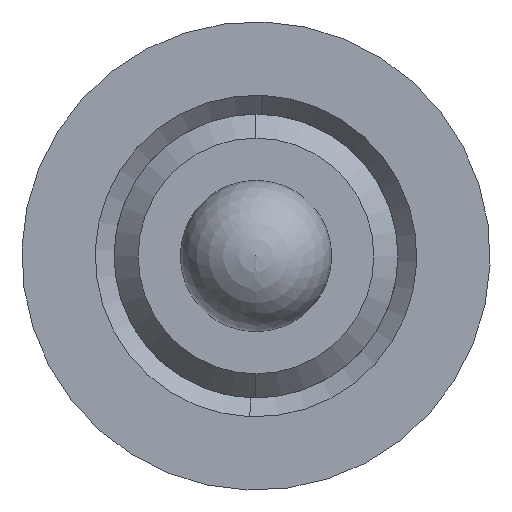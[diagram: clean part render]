
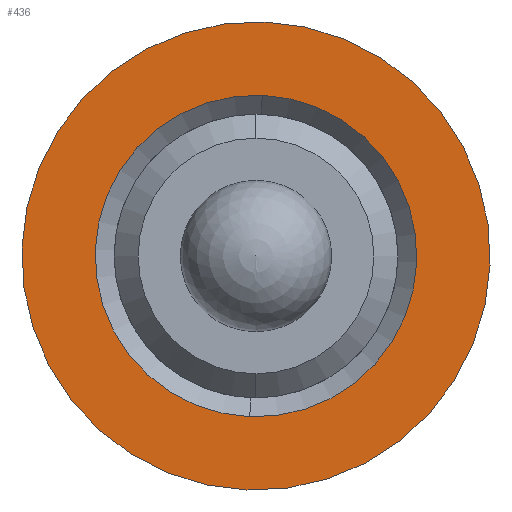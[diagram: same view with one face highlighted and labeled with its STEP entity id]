
A CAD part, left-side view. The second image highlights one B-rep face of the part: STEP entity #436.
In plain terms, the highlighted planar face has unit normal (-1, 0, 0).
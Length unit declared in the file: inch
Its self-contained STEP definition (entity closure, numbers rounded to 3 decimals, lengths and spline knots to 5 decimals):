
#23 = EDGE_CURVE ( 'NONE', #262, #951, #1159, .T. ) ;
#83 = DIRECTION ( 'NONE',  ( -1., 0., 0. ) ) ;
#126 = CIRCLE ( 'NONE', #1364, 0.09744 ) ;
#262 = VERTEX_POINT ( 'NONE', #748 ) ;
#263 = AXIS2_PLACEMENT_3D ( 'NONE', #1255, #83, #1057 ) ;
#276 = VERTEX_POINT ( 'NONE', #1132 ) ;
#301 = AXIS2_PLACEMENT_3D ( 'NONE', #750, #581, #1263 ) ;
#322 = AXIS2_PLACEMENT_3D ( 'NONE', #886, #1288, #1472 ) ;
#332 = DIRECTION ( 'NONE',  ( -1., 0., 0. ) ) ;
#334 = VERTEX_POINT ( 'NONE', #1005 ) ;
#412 = ORIENTED_EDGE ( 'NONE', *, *, #900, .T. ) ;
#436 = ADVANCED_FACE ( 'NONE', ( #630, #1307 ), #902, .F. ) ;
#501 = CARTESIAN_POINT ( 'NONE',  ( 0.01057, 0.25637, 0.26124 ) ) ;
#581 = DIRECTION ( 'NONE',  ( 1., 0., 0. ) ) ;
#611 = EDGE_LOOP ( 'NONE', ( #1056, #412 ) ) ;
#616 = CIRCLE ( 'NONE', #322, 0.06693 ) ;
#630 = FACE_BOUND ( 'NONE', #611, .T. ) ;
#741 = EDGE_CURVE ( 'NONE', #334, #276, #1299, .T. ) ;
#748 = CARTESIAN_POINT ( 'NONE',  ( 0.01057, 0.16275, 0.16012 ) ) ;
#750 = CARTESIAN_POINT ( 'NONE',  ( 0.01057, 0.159, 0.25749 ) ) ;
#805 = EDGE_CURVE ( 'NONE', #951, #262, #126, .T. ) ;
#813 = DIRECTION ( 'NONE',  ( 0., 0.038, -0.999 ) ) ;
#832 = CARTESIAN_POINT ( 'NONE',  ( 0.01057, 0.15525, 0.35486 ) ) ;
#886 = CARTESIAN_POINT ( 'NONE',  ( 0.01057, 0.159, 0.25749 ) ) ;
#900 = EDGE_CURVE ( 'NONE', #276, #334, #616, .T. ) ;
#902 = PLANE ( 'NONE',  #1016 ) ;
#905 = CARTESIAN_POINT ( 'NONE',  ( 0.01057, 0.159, 0.25749 ) ) ;
#951 = VERTEX_POINT ( 'NONE', #832 ) ;
#1005 = CARTESIAN_POINT ( 'NONE',  ( 0.01057, 0.15643, 0.32437 ) ) ;
#1006 = DIRECTION ( 'NONE',  ( 1., 0., 0. ) ) ;
#1016 = AXIS2_PLACEMENT_3D ( 'NONE', #501, #1006, #813 ) ;
#1039 = ORIENTED_EDGE ( 'NONE', *, *, #23, .T. ) ;
#1056 = ORIENTED_EDGE ( 'NONE', *, *, #741, .T. ) ;
#1057 = DIRECTION ( 'NONE',  ( 0., -0.038, 0.999 ) ) ;
#1089 = DIRECTION ( 'NONE',  ( 0., -0.038, 0.999 ) ) ;
#1132 = CARTESIAN_POINT ( 'NONE',  ( 0.01057, 0.16158, 0.19061 ) ) ;
#1159 = CIRCLE ( 'NONE', #263, 0.09744 ) ;
#1238 = EDGE_LOOP ( 'NONE', ( #1428, #1039 ) ) ;
#1255 = CARTESIAN_POINT ( 'NONE',  ( 0.01057, 0.159, 0.25749 ) ) ;
#1263 = DIRECTION ( 'NONE',  ( 0., 0.038, -0.999 ) ) ;
#1288 = DIRECTION ( 'NONE',  ( 1., 0., 0. ) ) ;
#1299 = CIRCLE ( 'NONE', #301, 0.06693 ) ;
#1307 = FACE_OUTER_BOUND ( 'NONE', #1238, .T. ) ;
#1364 = AXIS2_PLACEMENT_3D ( 'NONE', #905, #332, #1089 ) ;
#1428 = ORIENTED_EDGE ( 'NONE', *, *, #805, .T. ) ;
#1472 = DIRECTION ( 'NONE',  ( 0., 0.038, -0.999 ) ) ;
